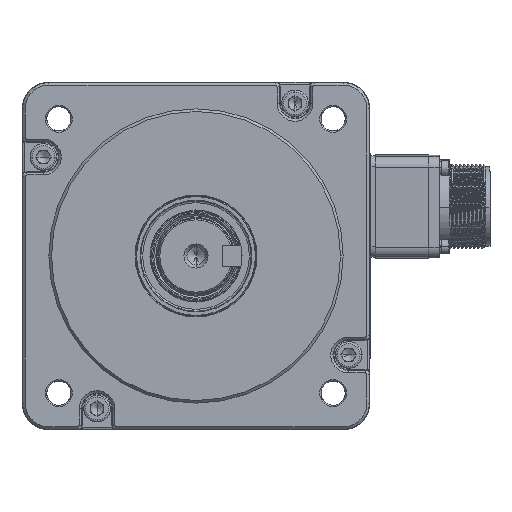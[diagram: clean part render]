
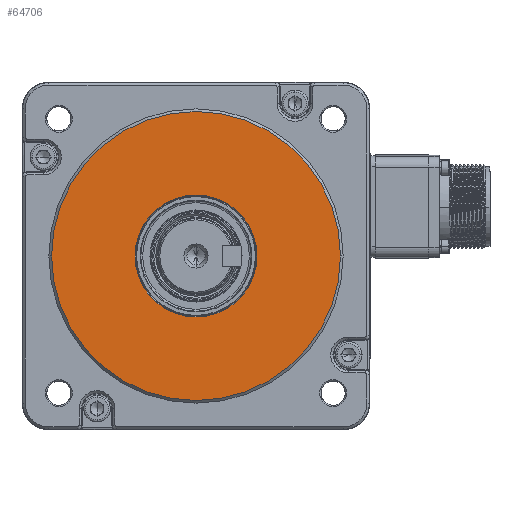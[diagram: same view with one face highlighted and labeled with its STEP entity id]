
A CAD part, left-side view. The second image highlights one B-rep face of the part: STEP entity #64706.
In plain terms, the highlighted planar face has unit normal (-1, 0, 0).
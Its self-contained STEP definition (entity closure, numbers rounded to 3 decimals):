
#2586 = CARTESIAN_POINT ( 'NONE',  ( 57., 54., 0. ) ) ;
#4273 = CARTESIAN_POINT ( 'NONE',  ( 57., -54., 0. ) ) ;
#9180 = CARTESIAN_POINT ( 'NONE',  ( 57., 0., 0. ) ) ;
#11789 = ORIENTED_EDGE ( 'NONE', *, *, #90396, .F. ) ;
#16456 = FACE_OUTER_BOUND ( 'NONE', #135638, .T. ) ;
#16492 = AXIS2_PLACEMENT_3D ( 'NONE', #64751, #162427, #78837 ) ;
#23201 = DIRECTION ( 'NONE',  ( 0., -1., 0. ) ) ;
#27801 = ORIENTED_EDGE ( 'NONE', *, *, #51858, .F. ) ;
#31060 = AXIS2_PLACEMENT_3D ( 'NONE', #67697, #126273, #42554 ) ;
#33891 = VERTEX_POINT ( 'NONE', #43487 ) ;
#42554 = DIRECTION ( 'NONE',  ( 0., -1., 0. ) ) ;
#43487 = CARTESIAN_POINT ( 'NONE',  ( 57., 22.789, 0. ) ) ;
#44848 = CARTESIAN_POINT ( 'NONE',  ( 57., 0., 0. ) ) ;
#46132 = AXIS2_PLACEMENT_3D ( 'NONE', #9180, #106758, #23201 ) ;
#47955 = DIRECTION ( 'NONE',  ( 1., 0., 0. ) ) ;
#51858 = EDGE_CURVE ( 'NONE', #33891, #107002, #73983, .T. ) ;
#53668 = FACE_BOUND ( 'NONE', #69737, .T. ) ;
#58604 = VERTEX_POINT ( 'NONE', #4273 ) ;
#58959 = DIRECTION ( 'NONE',  ( 0., -1., 0. ) ) ;
#64573 = CIRCLE ( 'NONE', #96199, 54. ) ;
#64706 = ADVANCED_FACE ( 'NONE', ( #16456, #53668 ), #112163, .F. ) ;
#64751 = CARTESIAN_POINT ( 'NONE',  ( 57., 0., 0. ) ) ;
#67697 = CARTESIAN_POINT ( 'NONE',  ( 57., 0., 0. ) ) ;
#69737 = EDGE_LOOP ( 'NONE', ( #27801, #113256 ) ) ;
#73983 = CIRCLE ( 'NONE', #46132, 22.789 ) ;
#77830 = CIRCLE ( 'NONE', #109331, 22.789 ) ;
#78837 = DIRECTION ( 'NONE',  ( 0., -1., 0. ) ) ;
#82445 = EDGE_CURVE ( 'NONE', #107002, #33891, #77830, .T. ) ;
#90396 = EDGE_CURVE ( 'NONE', #58604, #111976, #64573, .T. ) ;
#96199 = AXIS2_PLACEMENT_3D ( 'NONE', #131631, #47955, #145668 ) ;
#106758 = DIRECTION ( 'NONE',  ( -1., 0., 0. ) ) ;
#107002 = VERTEX_POINT ( 'NONE', #178598 ) ;
#109331 = AXIS2_PLACEMENT_3D ( 'NONE', #44848, #142593, #58959 ) ;
#111976 = VERTEX_POINT ( 'NONE', #2586 ) ;
#112163 = PLANE ( 'NONE',  #31060 ) ;
#113256 = ORIENTED_EDGE ( 'NONE', *, *, #82445, .F. ) ;
#126273 = DIRECTION ( 'NONE',  ( 1., 0., 0. ) ) ;
#131631 = CARTESIAN_POINT ( 'NONE',  ( 57., 0., 0. ) ) ;
#135638 = EDGE_LOOP ( 'NONE', ( #11789, #175882 ) ) ;
#142593 = DIRECTION ( 'NONE',  ( -1., 0., 0. ) ) ;
#145668 = DIRECTION ( 'NONE',  ( 0., -1., 0. ) ) ;
#162427 = DIRECTION ( 'NONE',  ( 1., 0., 0. ) ) ;
#172297 = EDGE_CURVE ( 'NONE', #111976, #58604, #176292, .T. ) ;
#175882 = ORIENTED_EDGE ( 'NONE', *, *, #172297, .F. ) ;
#176292 = CIRCLE ( 'NONE', #16492, 54. ) ;
#178598 = CARTESIAN_POINT ( 'NONE',  ( 57., -22.789, 0. ) ) ;
